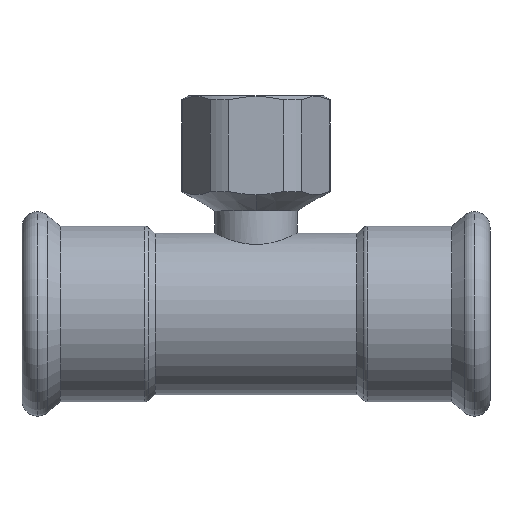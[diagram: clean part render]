
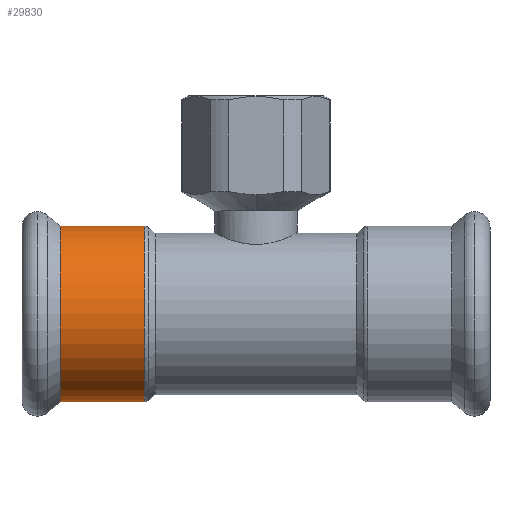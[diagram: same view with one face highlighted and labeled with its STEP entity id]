
A CAD part, top view. The second image highlights one B-rep face of the part: STEP entity #29830.
In plain terms, the highlighted cylindrical face has radius 19.15 mm (diameter 38.3 mm), a partial arc.
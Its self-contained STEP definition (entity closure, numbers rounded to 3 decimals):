
#1120=CARTESIAN_POINT('',(-269.361,214.189,0.));
#1130=VERTEX_POINT('',#1120);
#1310=CARTESIAN_POINT('',(-307.661,214.189,
0.));
#1320=VERTEX_POINT('',#1310);
#1350=CARTESIAN_POINT('',(-288.511,214.189,0.));
#1360=DIRECTION('',(0.,1.,0.));
#1370=DIRECTION('',(-1.,0.,0.));
#1380=AXIS2_PLACEMENT_3D('',#1350,#1360,#1370);
#1390=CIRCLE('',#1380,19.15);
#1450=CARTESIAN_POINT('',(-288.511,204.782,0.));
#1460=DIRECTION('',(0.,-1.,0.));
#1470=DIRECTION('',(-1.,0.,0.));
#1480=AXIS2_PLACEMENT_3D('',#1450,#1460,#1470);
#1490=CYLINDRICAL_SURFACE('',#1480,19.15);
#1500=CARTESIAN_POINT('',(-269.361,204.782,
0.));
#1510=DIRECTION('',(0.,-1.,0.));
#1520=VECTOR('',#1510,1.);
#1530=LINE('',#1500,#1520);
#1540=CARTESIAN_POINT('',(-269.361,195.922,0.));
#1550=VERTEX_POINT('',#1540);
#1560=EDGE_CURVE('',#1130,#1550,#1530,.T.);
#1590=CARTESIAN_POINT('',(-307.661,204.782,0.));
#1600=DIRECTION('',(0.,-1.,0.));
#1610=VECTOR('',#1600,1.);
#1620=LINE('',#1590,#1610);
#1630=CARTESIAN_POINT('',(-307.661,195.922,0.));
#1640=VERTEX_POINT('',#1630);
#1650=EDGE_CURVE('',#1320,#1640,#1620,.T.);
#1670=CARTESIAN_POINT('',(-288.511,195.922,0.));
#1680=DIRECTION('',(0.,-1.,0.));
#1690=DIRECTION('',(-1.,0.,0.));
#1700=AXIS2_PLACEMENT_3D('',#1670,#1680,#1690);
#1710=CIRCLE('',#1700,19.15);
#29750=EDGE_CURVE('',#1320,#1130,#1390,.T.);
#29760=ORIENTED_EDGE('',*,*,#29750,.F.);
#29770=ORIENTED_EDGE('',*,*,#1560,.F.);
#29780=EDGE_CURVE('',#1550,#1640,#1710,.T.);
#29790=ORIENTED_EDGE('',*,*,#29780,.F.);
#29800=ORIENTED_EDGE('',*,*,#1650,.T.);
#29810=EDGE_LOOP('',(#29800,#29790,#29770,#29760));
#29820=FACE_OUTER_BOUND('',#29810,.T.);
#29830=ADVANCED_FACE('',(#29820),#1490,.T.);
